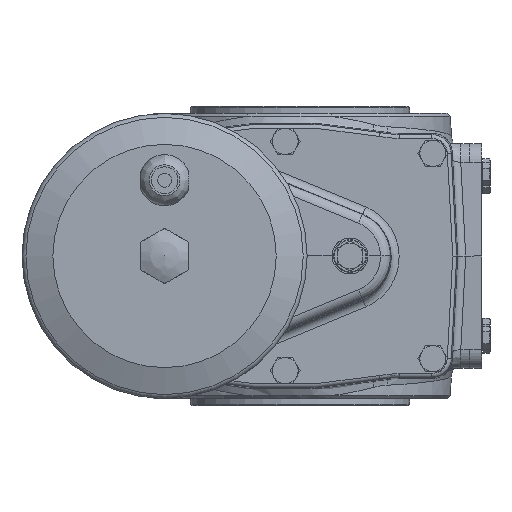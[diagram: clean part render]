
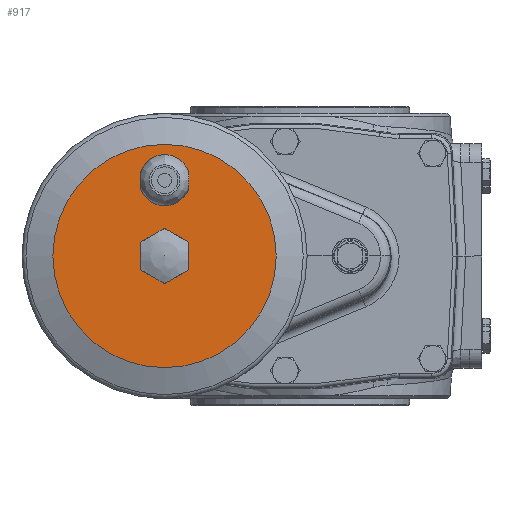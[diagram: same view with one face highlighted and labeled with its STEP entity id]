
A CAD part, left-side view. The second image highlights one B-rep face of the part: STEP entity #917.
In plain terms, the highlighted planar face has unit normal (-1, 0, 0).
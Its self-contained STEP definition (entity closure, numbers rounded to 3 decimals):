
#917 = ADVANCED_FACE( '', ( #2565, #2566, #2567 ), #2568, .T. );
#2565 = FACE_BOUND( '', #5570, .T. );
#2566 = FACE_OUTER_BOUND( '', #5571, .T. );
#2567 = FACE_BOUND( '', #5572, .T. );
#2568 = PLANE( '', #5573 );
#5570 = EDGE_LOOP( '', ( #17424, #17425, #17426, #17427 ) );
#5571 = EDGE_LOOP( '', ( #17428 ) );
#5572 = EDGE_LOOP( '', ( #17429, #17430, #17431, #17432, #17433, #17434 ) );
#5573 = AXIS2_PLACEMENT_3D( '', #17435, #17436, #17437 );
#17424 = ORIENTED_EDGE( '', *, *, #23186, .F. );
#17425 = ORIENTED_EDGE( '', *, *, #23187, .F. );
#17426 = ORIENTED_EDGE( '', *, *, #23188, .F. );
#17427 = ORIENTED_EDGE( '', *, *, #23189, .T. );
#17428 = ORIENTED_EDGE( '', *, *, #23190, .T. );
#17429 = ORIENTED_EDGE( '', *, *, #23191, .T. );
#17430 = ORIENTED_EDGE( '', *, *, #23192, .T. );
#17431 = ORIENTED_EDGE( '', *, *, #23193, .T. );
#17432 = ORIENTED_EDGE( '', *, *, #23194, .T. );
#17433 = ORIENTED_EDGE( '', *, *, #23195, .T. );
#17434 = ORIENTED_EDGE( '', *, *, #23196, .T. );
#17435 = CARTESIAN_POINT( '', ( -565., 68., 56. ) );
#17436 = DIRECTION( '', ( -1., 0., 0. ) );
#17437 = DIRECTION( '', ( 0., 0., 1. ) );
#23186 = EDGE_CURVE( '', #25726, #25727, #25728, .T. );
#23187 = EDGE_CURVE( '', #25729, #25726, #25730, .T. );
#23188 = EDGE_CURVE( '', #25731, #25729, #25732, .T. );
#23189 = EDGE_CURVE( '', #25731, #25727, #25733, .T. );
#23190 = EDGE_CURVE( '', #25734, #25734, #25735, .T. );
#23191 = EDGE_CURVE( '', #25736, #25737, #25738, .T. );
#23192 = EDGE_CURVE( '', #25737, #25739, #25740, .T. );
#23193 = EDGE_CURVE( '', #25739, #25741, #25742, .T. );
#23194 = EDGE_CURVE( '', #25741, #25743, #25744, .T. );
#23195 = EDGE_CURVE( '', #25743, #25745, #25746, .T. );
#23196 = EDGE_CURVE( '', #25745, #25736, #25747, .T. );
#25726 = VERTEX_POINT( '', #29818 );
#25727 = VERTEX_POINT( '', #29819 );
#25728 = CIRCLE( '', #29820, 12.8 );
#25729 = VERTEX_POINT( '', #29821 );
#25730 = LINE( '', #29822, #29823 );
#25731 = VERTEX_POINT( '', #29824 );
#25732 = CIRCLE( '', #29825, 12.8 );
#25733 = LINE( '', #29826, #29827 );
#25734 = VERTEX_POINT( '', #29828 );
#25735 = CIRCLE( '', #29829, 56. );
#25736 = VERTEX_POINT( '', #29830 );
#25737 = VERTEX_POINT( '', #29831 );
#25738 = LINE( '', #29832, #29833 );
#25739 = VERTEX_POINT( '', #29834 );
#25740 = LINE( '', #29835, #29836 );
#25741 = VERTEX_POINT( '', #29837 );
#25742 = LINE( '', #29838, #29839 );
#25743 = VERTEX_POINT( '', #29840 );
#25744 = LINE( '', #29841, #29842 );
#25745 = VERTEX_POINT( '', #29843 );
#25746 = LINE( '', #29844, #29845 );
#25747 = LINE( '', #29846, #29847 );
#29818 = CARTESIAN_POINT( '', ( -565., 80., 33.546 ) );
#29819 = CARTESIAN_POINT( '', ( -565., 56., 33.546 ) );
#29820 = AXIS2_PLACEMENT_3D( '', #37091, #37092, #37093 );
#29821 = CARTESIAN_POINT( '', ( -565., 80., 42.454 ) );
#29822 = CARTESIAN_POINT( '', ( -565., 80., 42.454 ) );
#29823 = VECTOR( '', #37094, 1000. );
#29824 = CARTESIAN_POINT( '', ( -565., 56., 42.454 ) );
#29825 = AXIS2_PLACEMENT_3D( '', #37095, #37096, #37097 );
#29826 = CARTESIAN_POINT( '', ( -565., 56., 42.454 ) );
#29827 = VECTOR( '', #37098, 1000. );
#29828 = CARTESIAN_POINT( '', ( -565., 68., 56. ) );
#29829 = AXIS2_PLACEMENT_3D( '', #37099, #37100, #37101 );
#29830 = CARTESIAN_POINT( '', ( -565., 56., -6.928 ) );
#29831 = CARTESIAN_POINT( '', ( -565., 68., -13.856 ) );
#29832 = CARTESIAN_POINT( '', ( -565., 56., -6.928 ) );
#29833 = VECTOR( '', #37102, 1000. );
#29834 = CARTESIAN_POINT( '', ( -565., 80., -6.928 ) );
#29835 = CARTESIAN_POINT( '', ( -565., 68., -13.856 ) );
#29836 = VECTOR( '', #37103, 1000. );
#29837 = CARTESIAN_POINT( '', ( -565., 80., 6.928 ) );
#29838 = CARTESIAN_POINT( '', ( -565., 80., -6.928 ) );
#29839 = VECTOR( '', #37104, 1000. );
#29840 = CARTESIAN_POINT( '', ( -565., 68., 13.856 ) );
#29841 = CARTESIAN_POINT( '', ( -565., 80., 6.928 ) );
#29842 = VECTOR( '', #37105, 1000. );
#29843 = CARTESIAN_POINT( '', ( -565., 56., 6.928 ) );
#29844 = CARTESIAN_POINT( '', ( -565., 68., 13.856 ) );
#29845 = VECTOR( '', #37106, 1000. );
#29846 = CARTESIAN_POINT( '', ( -565., 56., 6.928 ) );
#29847 = VECTOR( '', #37107, 1000. );
#37091 = CARTESIAN_POINT( '', ( -565., 68., 38. ) );
#37092 = DIRECTION( '', ( -1., 0., 0. ) );
#37093 = DIRECTION( '', ( 0., 0., 1. ) );
#37094 = DIRECTION( '', ( 0., 0., -1. ) );
#37095 = CARTESIAN_POINT( '', ( -565., 68., 38. ) );
#37096 = DIRECTION( '', ( -1., 0., 0. ) );
#37097 = DIRECTION( '', ( 0., 0., 1. ) );
#37098 = DIRECTION( '', ( 0., 0., -1. ) );
#37099 = CARTESIAN_POINT( '', ( -565., 68., 0. ) );
#37100 = DIRECTION( '', ( -1., 0., 0. ) );
#37101 = DIRECTION( '', ( 0., 0., 1. ) );
#37102 = DIRECTION( '', ( 0., 0.866, -0.5 ) );
#37103 = DIRECTION( '', ( 0., 0.866, 0.5 ) );
#37104 = DIRECTION( '', ( 0., 0., 1. ) );
#37105 = DIRECTION( '', ( 0., -0.866, 0.5 ) );
#37106 = DIRECTION( '', ( 0., -0.866, -0.5 ) );
#37107 = DIRECTION( '', ( 0., 0., -1. ) );
